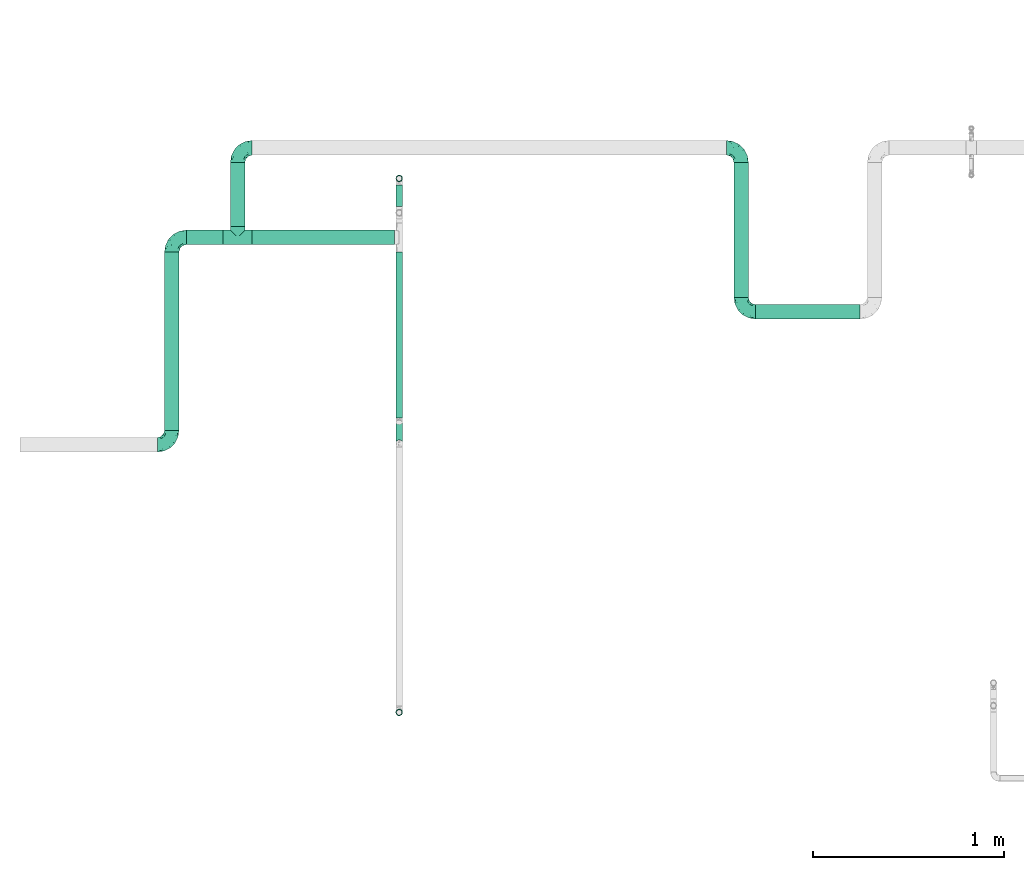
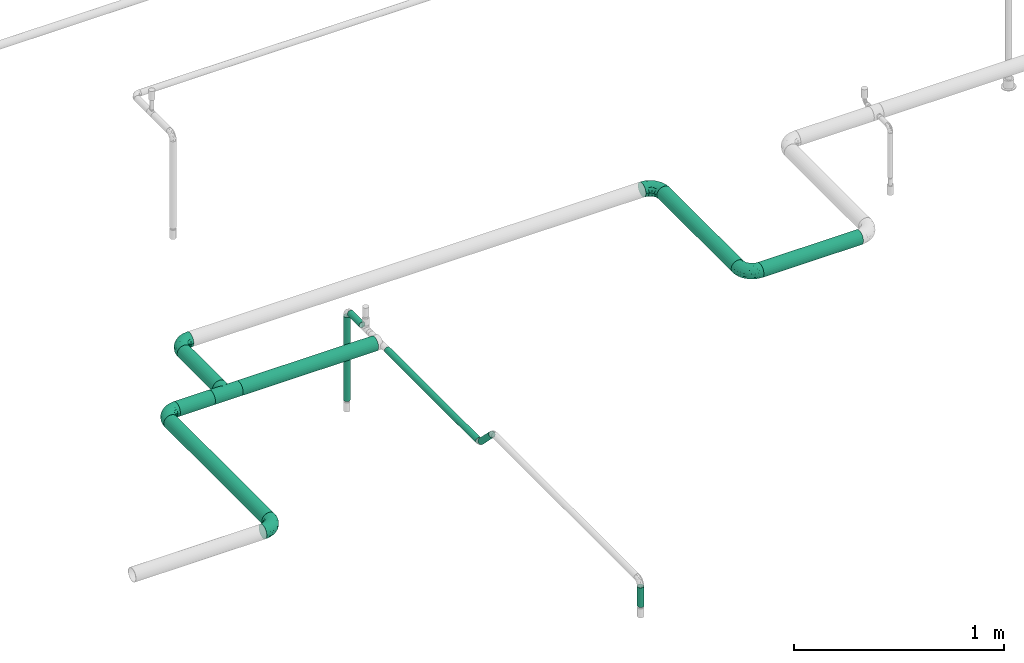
# One storey, part 2 of 51: 11 flow segments, 6 flow fittings.
"""IFC2X3 building model written with IfcOpenShell, lengths in millimetres."""

from ifc_helpers import new_model, entity, si_unit, converted_unit, derived_unit, direction, frame, origin_with_axes, origin_2d_with_axis, place, context, subcontext, project, spatial, hollow_circle, extrude, open_shell, surface_model, source, transform, mapped, type_object, element, save


model = new_model("IFC2X3")

# Units and contexts
model_context = context("Model", 3, precision=0.01, world=frame((0.0, 4.29681676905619e-09, 0.0)), true_north=direction((4.01073788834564e-13, 1.0)))
plan_context = context("Plan", 3, precision=0.01, world=frame((0.0, 4.29681676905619e-09, 0.0)), true_north=direction((4.01073788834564e-13, 1.0)))
body_context = subcontext(model_context, "Body", "Model", "MODEL_VIEW")
ifc_project = project(units=[converted_unit("PLANEANGLEUNIT", "DEGREE", entity("IfcPositiveLengthMeasure", 0.0174532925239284), si_unit("PLANEANGLEUNIT", "RADIAN"), dimensions=[0, 0, 0, 0, 0, 0, 0]), si_unit("AREAUNIT", "SQUARE_METRE"), si_unit("LENGTHUNIT", "METRE", prefix="MILLI"), si_unit("MASSUNIT", "GRAM", prefix="KILO"), si_unit("POWERUNIT", "WATT"), si_unit("PRESSUREUNIT", "PASCAL"), si_unit("FORCEUNIT", "NEWTON", prefix="KILO"), si_unit("ELECTRICVOLTAGEUNIT", "VOLT"), si_unit("ELECTRICCURRENTUNIT", "AMPERE"), si_unit("THERMODYNAMICTEMPERATUREUNIT", "DEGREE_CELSIUS"), si_unit("TIMEUNIT", "SECOND"), si_unit("VOLUMEUNIT", "CUBIC_METRE"), derived_unit("LINEARVELOCITYUNIT", [(si_unit("LENGTHUNIT", "METRE"), 1), (si_unit("TIMEUNIT", "SECOND"), -1)]), derived_unit("VOLUMETRICFLOWRATEUNIT", [(si_unit("VOLUMEUNIT", "CUBIC_METRE"), 1), (si_unit("TIMEUNIT", "SECOND"), -1)]), derived_unit("THERMALTRANSMITTANCEUNIT", [(si_unit("POWERUNIT", "WATT"), 1), (si_unit("THERMODYNAMICTEMPERATUREUNIT", "KELVIN"), -1), (si_unit("AREAUNIT", "SQUARE_METRE"), -1)]), derived_unit("SOUNDPRESSUREUNIT", [(si_unit("PRESSUREUNIT", "PASCAL"), 1)])], contexts=[model_context, plan_context])

# Site, building, storey
site_placement = place(None, frame((0.0, -4.29681676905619e-09, 0.0), z_axis=(0.0, 0.0, 1.0), x_axis=(1.0, 0.0, 0.0)))
site = spatial("IfcSite", under=ifc_project, at=site_placement, Name="ENGM", CompositionType="ELEMENT")
building_placement = place(site_placement, frame((0.0, 4.29681676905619e-09, 0.0), z_axis=(0.0, 0.0, 1.0), x_axis=(1.0, 0.0, 0.0)))
building = spatial("IfcBuilding", under=site, at=building_placement, Name="TH", CompositionType="ELEMENT")
storey_placement = place(building_placement, frame((0.0, 0.0, 210200.0), z_axis=(0.0, 0.0, 1.0), x_axis=(1.0, 0.0, 0.0)))
storey = spatial("IfcBuildingStorey", under=building, at=storey_placement, Name="Nivå F - 0,7 m", CompositionType="ELEMENT", Elevation=210200.0)

# Flow fittings
pipe_fitting_type_1 = type_object("IfcPipeFittingType", Name="magi_pipe_fe_tee_centric_90_NOR", PredefinedType="JUNCTION")
shared_shape_1 = source(origin_with_axes(), body_context, "Body", "SurfaceModel", [
    surface_model("IfcShellBasedSurfaceModel", [(-76.2, 19.05, -32.99557), (-76.2, 9.86101, -36.80177), (-76.2, 0.0, -38.1), (-76.2, 26.94077, -26.94077), (-76.2, 36.80177, -9.86101), (-76.2, 32.99557, -19.05), (-76.2, -19.05, -32.99557), (-76.2, -26.94077, -26.94077), (-76.2, -9.86101, -36.80177), (-76.2, 38.1, 0.0), (-76.2, 36.80177, 9.86101), (-76.2, -38.1, 0.0), (-76.2, -36.80177, -9.86101), (-76.2, -32.99557, -19.05), (-76.2, 32.99557, 19.05), (-76.2, -36.80177, 9.86101), (-76.2, 19.05, 32.99557), (-76.2, 26.94077, 26.94077), (-76.2, 0.0, 38.1), (-76.2, 9.86101, 36.80177), (-76.2, -26.94077, 26.94077), (-76.2, -32.99557, 19.05), (-76.2, -9.86101, 36.80177), (-76.2, -19.05, 32.99557), (76.2, 0.0, -38.1), (76.2, -36.80177, 9.86101), (76.2, -38.1, 0.0), (76.2, 36.80177, -9.86101), (76.2, 9.86101, -36.80177), (76.2, 19.05, -32.99557), (76.2, 26.94077, -26.94077), (76.2, 32.99557, -19.05), (76.2, -9.86101, -36.80177), (76.2, -26.94077, -26.94077), (76.2, -19.05, -32.99557), (76.2, -32.99557, -19.05), (76.2, -36.80177, -9.86101), (76.2, 19.05, 32.99557), (76.2, 36.80177, 9.86101), (76.2, 32.99557, 19.05), (76.2, 0.0, 38.1), (76.2, 26.94077, 26.94077), (76.2, 9.86101, 36.80177), (76.2, -32.99557, 19.05), (76.2, -26.94077, 26.94077), (76.2, -19.05, 32.99557), (76.2, -9.86101, 36.80177), (76.2, 38.1, 0.0), (37.03376, -37.03376, 8.95045), (38.1, -38.1, 0.0), (76.2, -34.89867, 14.4555), (35.56052, -35.56052, 12.98504), (34.08727, -34.08727, 17.01964), (18.8305, -18.8305, 33.12132), (76.2, -22.99539, 29.96817), (29.78269, -29.78269, 23.76134), (76.2, -29.96817, 22.99539), (24.5894, -24.5894, 29.10277), (-35.56052, -35.56052, 12.98504), (-76.2, -34.89867, 14.4555), (-34.08727, -34.08727, 17.01964), (-37.03376, -37.03376, 8.95045), (-38.1, -38.1, 0.0), (-18.8305, -18.8305, 33.12132), (-76.2, -22.99539, 29.96817), (-29.78269, -29.78269, 23.76134), (-24.5894, -24.5894, 29.10277), (-76.2, -29.96817, 22.99539), (-12.71924, -12.71924, 35.91422), (6.40528, -6.40528, 37.55772), (12.71924, -12.71924, 35.91422), (0.0, 0.0, 38.1), (-6.40528, -6.40528, 37.55772), (6.40528, -6.40528, -37.55772), (0.0, 0.0, -38.1), (12.71924, -12.71924, -35.91422), (-24.5894, -24.5894, -29.10277), (-76.2, -22.99539, -29.96817), (-35.56052, -35.56052, -12.98504), (-37.03376, -37.03376, -8.95045), (-29.78269, -29.78269, -23.76134), (-76.2, -29.96817, -22.99539), (-6.40528, -6.40528, -37.55772), (-12.71924, -12.71924, -35.91422), (18.8305, -18.8305, -33.12132), (76.2, -22.99539, -29.96817), (24.5894, -24.5894, -29.10277), (-76.2, -34.89867, -14.4555), (-34.08727, -34.08727, -17.01964), (29.78269, -29.78269, -23.76134), (76.2, -29.96817, -22.99539), (37.03376, -37.03376, -8.95045), (35.56052, -35.56052, -12.98504), (34.08727, -34.08727, -17.01964), (76.2, -34.89867, -14.4555), (-18.8305, -18.8305, -33.12132), (0.0, -57.15, -38.1), (9.86101, -57.15, -36.80177), (19.05, -57.15, -32.99557), (26.94077, -57.15, -26.94077), (32.99557, -57.15, -19.05), (36.80177, -57.15, -9.86101), (0.0, -57.15, 38.1), (-26.94077, -57.15, -26.94077), (-9.86101, -57.15, -36.80177), (-19.05, -57.15, -32.99557), (-36.80177, -57.15, -9.86101), (-32.99557, -57.15, -19.05), (-32.99557, -57.15, 19.05), (-36.80177, -57.15, 9.86101), (-38.1, -57.15, 0.0), (19.05, -57.15, 32.99557), (36.80177, -57.15, 9.86101), (32.99557, -57.15, 19.05), (26.94077, -57.15, 26.94077), (9.86101, -57.15, 36.80177), (-26.94077, -57.15, 26.94077), (-19.05, -57.15, 32.99557), (-9.86101, -57.15, 36.80177), (38.1, -57.15, 0.0)], [open_shell([[[0, 1, 2]], [[3, 0, 2]], [[4, 5, 3]], [[6, 7, 8]], [[9, 4, 10]], [[11, 3, 2]], [[4, 3, 11]], [[11, 8, 7]], [[12, 11, 13]], [[7, 13, 11]], [[11, 2, 8]], [[11, 10, 4]], [[14, 10, 11]], [[14, 11, 15]], [[15, 16, 14]], [[17, 14, 16]], [[18, 19, 16]], [[20, 18, 21]], [[15, 21, 18]], [[22, 18, 23]], [[20, 23, 18]], [[18, 16, 15]], [[24, 25, 26]], [[27, 28, 29]], [[30, 31, 27]], [[30, 27, 29]], [[28, 25, 24]], [[32, 33, 34]], [[32, 24, 33]], [[35, 26, 36]], [[26, 35, 33]], [[24, 26, 33]], [[28, 27, 37]], [[27, 38, 37]], [[37, 38, 39]], [[37, 40, 28]], [[37, 39, 41]], [[40, 37, 42]], [[43, 40, 44]], [[25, 28, 43]], [[45, 40, 46]], [[40, 45, 44]], [[40, 43, 28]], [[38, 27, 47]], [[26, 25, 48]], [[48, 49, 26]], [[25, 50, 51]], [[50, 43, 52]], [[45, 53, 54]], [[44, 55, 56]], [[55, 44, 57]], [[43, 55, 52]], [[57, 44, 54]], [[15, 58, 59]], [[60, 59, 58]], [[61, 11, 62]], [[11, 61, 15]], [[15, 61, 58]], [[63, 23, 64]], [[65, 66, 20]], [[65, 67, 21]], [[20, 66, 64]], [[63, 68, 23]], [[65, 21, 60]], [[50, 52, 51]], [[54, 53, 57]], [[46, 40, 69]], [[25, 51, 48]], [[53, 45, 70]], [[69, 70, 46]], [[65, 20, 67]], [[69, 40, 71]], [[70, 45, 46]], [[14, 41, 39]], [[10, 39, 38]], [[16, 42, 37]], [[17, 37, 41]], [[42, 71, 40]], [[9, 38, 47]], [[72, 71, 18]], [[60, 21, 59]], [[72, 22, 68]], [[22, 72, 18]], [[22, 23, 68]], [[71, 19, 18]], [[63, 64, 66]], [[42, 19, 71]], [[16, 19, 42]], [[16, 37, 17]], [[14, 17, 41]], [[10, 14, 39]], [[38, 9, 10]], [[55, 43, 56]], [[3, 31, 30]], [[4, 27, 31]], [[9, 47, 27]], [[0, 30, 29]], [[24, 32, 73]], [[28, 24, 74]], [[73, 32, 75]], [[76, 7, 77]], [[29, 28, 1]], [[32, 34, 75]], [[24, 73, 74]], [[4, 31, 5]], [[0, 3, 30]], [[5, 31, 3]], [[9, 27, 4]], [[12, 78, 79]], [[80, 13, 81]], [[82, 83, 8]], [[74, 82, 2]], [[74, 2, 1]], [[2, 82, 8]], [[83, 6, 8]], [[1, 0, 29]], [[74, 1, 28]], [[84, 85, 86]], [[85, 33, 86]], [[87, 88, 78]], [[84, 34, 85]], [[89, 86, 33]], [[90, 35, 89]], [[34, 84, 75]], [[36, 91, 92]], [[91, 36, 26]], [[93, 94, 92]], [[49, 91, 26]], [[35, 93, 89]], [[76, 77, 95]], [[36, 92, 94]], [[77, 6, 95]], [[7, 76, 80]], [[7, 80, 81]], [[93, 35, 94]], [[95, 6, 83]], [[79, 62, 11]], [[12, 87, 78]], [[88, 87, 13]], [[12, 79, 11]], [[88, 13, 80]], [[89, 33, 90]], [[96, 97, 98]], [[96, 98, 99]], [[99, 100, 101]], [[99, 101, 96]], [[102, 103, 96]], [[104, 103, 105]], [[104, 96, 103]], [[103, 106, 107]], [[103, 108, 106]], [[106, 109, 110]], [[111, 96, 101]], [[112, 113, 101]], [[101, 113, 111]], [[111, 102, 96]], [[111, 113, 114]], [[102, 111, 115]], [[108, 102, 116]], [[109, 106, 108]], [[117, 102, 118]], [[102, 117, 116]], [[102, 108, 103]], [[112, 101, 119]], [[61, 62, 110]], [[109, 61, 110]], [[116, 117, 66]], [[65, 108, 116]], [[60, 109, 108]], [[68, 117, 118]], [[60, 61, 109]], [[66, 65, 116]], [[60, 108, 65]], [[68, 63, 117]], [[102, 71, 72]], [[68, 118, 72]], [[66, 117, 63]], [[72, 118, 102]], [[69, 102, 115]], [[111, 70, 115]], [[113, 112, 52]], [[55, 114, 113]], [[57, 111, 114]], [[48, 112, 119]], [[57, 53, 111]], [[70, 69, 115]], [[53, 70, 111]], [[49, 48, 119]], [[52, 55, 113]], [[48, 52, 112]], [[57, 114, 55]], [[102, 69, 71]], [[49, 119, 91]], [[101, 91, 119]], [[89, 100, 99]], [[99, 98, 86]], [[93, 101, 100]], [[75, 98, 97]], [[93, 91, 101]], [[86, 89, 99]], [[93, 100, 89]], [[75, 84, 98]], [[96, 74, 73]], [[75, 97, 73]], [[86, 98, 84]], [[73, 97, 96]], [[82, 96, 104]], [[105, 83, 104]], [[107, 106, 88]], [[80, 103, 107]], [[76, 105, 103]], [[79, 106, 110]], [[76, 95, 105]], [[83, 82, 104]], [[95, 83, 105]], [[62, 79, 110]], [[88, 80, 107]], [[79, 88, 106]], [[76, 103, 80]], [[96, 82, 74]]])]),
])
flow_fitting_placement = place(storey_placement, frame((896252.9663, 483859.45519, 2933.0), z_axis=(0.0, 0.0, 1.0), x_axis=(-1.0, 0.0, 0.0)))
element("IfcFlowFitting", 1, at=flow_fitting_placement, inside=storey, type_object=pipe_fitting_type_1, Name="magi_pipe_fe_tee_centric_90_NOR", context=body_context, shape_type="MappedRepresentation", body=[
    mapped(shared_shape_1, transform((0.0, 0.0, 0.0), scale=1.0)),
])
pipe_fitting_type_2 = type_object("IfcPipeFittingType", Name="magi_pipe_fe_elbow_short_001", PredefinedType="BEND")
shared_shape_2 = source(origin_with_axes(), body_context, "Body", "SurfaceModel", [
    surface_model("IfcShellBasedSurfaceModel", [(-76.2, 19.05, -32.99557), (-76.2, 9.86101, -36.80177), (-76.2, 0.0, -38.1), (-76.2, 26.94077, -26.94077), (-76.2, 36.80177, -9.86101), (-76.2, 32.99557, -19.05), (-76.2, -26.94077, -26.94077), (-76.2, -36.80177, -9.86101), (-76.2, -19.05, -32.99557), (-76.2, -9.86101, -36.80177), (-76.2, -32.99557, -19.05), (-76.2, -38.1, 0.0), (-76.2, -36.80177, 9.86101), (-76.2, 26.94077, 26.94077), (-76.2, 36.80177, 9.86101), (-76.2, 32.99557, 19.05), (-76.2, 9.86101, 36.80177), (-76.2, 19.05, 32.99557), (-76.2, 0.0, 38.1), (-76.2, -32.99557, 19.05), (-76.2, -26.94077, 26.94077), (-76.2, -9.86101, 36.80177), (-76.2, -19.05, 32.99557), (-76.2, 38.1, 0.0), (0.0, 76.2, -38.1), (-9.86101, 76.2, -36.80177), (-19.05, 76.2, -32.99557), (-26.94077, 76.2, -26.94077), (-32.99557, 76.2, -19.05), (-36.80177, 76.2, -9.86101), (26.94077, 76.2, -26.94077), (36.80177, 76.2, -9.86101), (9.86101, 76.2, -36.80177), (19.05, 76.2, -32.99557), (32.99557, 76.2, -19.05), (36.80177, 76.2, 9.86101), (38.1, 76.2, 0.0), (-36.80177, 76.2, 9.86101), (-26.94077, 76.2, 26.94077), (-32.99557, 76.2, 19.05), (-19.05, 76.2, 32.99557), (-9.86101, 76.2, 36.80177), (0.0, 76.2, 38.1), (26.94077, 76.2, 26.94077), (32.99557, 76.2, 19.05), (9.86101, 76.2, 36.80177), (19.05, 76.2, 32.99557), (-38.1, 76.2, 0.0), (-51.47253, -33.41495, 11.97429), (-55.87921, -29.59735, 21.38675), (-40.87936, -32.50576, 0.0), (-57.46182, -35.13216, 0.0), (-9.7569, -13.15819, 14.69187), (-2.65186, -10.17769, 8.01257), (2.20082, -2.20082, 15.78668), (-58.2046, -5.04721, 37.4484), (-53.35237, 5.84022, 38.03506), (13.01533, 9.30417, 14.3119), (23.26567, 31.00373, 18.95093), (8.92292, 13.82363, 24.31711), (-37.93212, -0.34191, 36.92855), (-55.73356, -14.37507, 34.26516), (-29.5907, -8.99996, 31.84562), (-48.87429, -21.76577, 28.30344), (-34.13735, -29.20196, 7.83838), (-24.94775, -24.3882, 0.0), (-13.82363, -8.92292, 24.31711), (-6.80575, 6.80575, 31.14998), (-37.24299, 60.80967, 16.55959), (-31.82754, 59.31737, 25.03043), (-14.22204, 65.71998, 35.68746), (-5.22176, 56.99222, 38.00642), (-58.73143, 14.94265, 35.9909), (-9.94517, 25.51838, 37.4103), (-18.93111, 6.98952, 35.57772), (-3.89226, 20.58438, 35.01344), (-65.91802, 23.07271, 31.04479), (-13.24152, 37.4675, 38.03164), (-28.22122, 28.22122, 37.17425), (-22.68668, 16.64938, 37.90374), (-60.23482, 40.58212, 8.37688), (-60.8286, 37.23683, 16.55705), (-47.30619, 47.30619, 14.2421), (-59.55922, 31.76102, 25.00381), (21.76577, 48.87429, 28.30344), (-39.51357, 50.50487, 21.56421), (14.37507, 55.73356, 34.26516), (29.59735, 55.87921, 21.38675), (33.41495, 51.47253, 11.97429), (-9.01615, -16.27064, 0.0), (-18.50075, -20.95742, 9.87146), (5.04721, 58.2046, 37.4484), (-41.86713, 16.32002, 37.41817), (-37.38612, 9.33613, 38.08374), (24.3882, 24.94775, 0.0), (29.20196, 34.13735, 7.83838), (20.95742, 18.50075, 9.87146), (35.13216, 57.46182, 0.0), (-40.50473, 25.85184, 35.24027), (-31.00373, -23.26567, 18.95093), (-27.62233, 49.24446, 32.02197), (-23.27638, 63.88751, 31.20285), (-40.10509, 61.46399, 8.17366), (-47.75011, 49.97248, 6.70535), (17.55292, 30.69115, 25.82241), (8.99996, 29.5907, 31.84562), (-43.20443, 57.15, 0.0), (-35.27088, 40.23417, 31.3068), (-52.46543, 25.86294, 32.08413), (-0.58232, 0.58231, 22.50977), (-21.74145, 39.43998, 36.62577), (-30.35377, 36.8865, 34.66668), (-16.47755, 51.62643, 36.28492), (-40.16133, 42.54966, 26.98796), (-48.93373, 40.93898, 21.24545), (0.34191, 37.93212, 36.92855), (-30.54899, -16.70018, 26.56572), (10.38979, 2.76708, 7.59679), (32.50576, 40.87936, 0.0), (16.27064, 9.01615, 0.0), (-57.15, 43.20443, 0.0), (3.62725, -3.62725, 0.0), (-56.18403, 32.81229, -25.37784), (-60.79374, 37.24818, -16.56172), (-31.12583, -9.61531, -31.96506), (-33.08389, -0.47526, -36.23756), (-15.30809, -0.63756, -31.219), (-60.31522, 4.8175, -37.976), (-55.58208, -34.10815, -12.42093), (-47.87166, -28.25416, -20.6363), (-36.35476, -28.57081, -12.78243), (-55.4317, 15.55274, -36.12913), (-41.97308, 9.00674, -38.09177), (-32.8123, 56.18403, -25.37784), (-61.68117, 39.97816, -8.33686), (-23.91371, 59.81378, -31.51803), (-15.55274, 55.4317, -36.12913), (-48.48008, 48.48008, -9.09668), (22.76239, 55.12076, -28.76608), (13.14871, 48.24989, -33.88525), (15.02018, 64.34702, -34.67535), (-7.42295, -13.4022, -10.03386), (-7.53093, -9.8797, -17.36177), (4.09889, -3.23385, -10.05311), (-22.23209, 20.60173, -38.07837), (-36.11879, 22.54399, -36.96599), (-59.81378, 23.91371, -31.51803), (-64.14494, -30.32973, -22.13621), (-37.06617, 43.2809, -28.69704), (-35.21221, 35.21221, -33.45314), (-46.56802, 32.18433, -30.26847), (3.32253, -0.70027, -16.3296), (-55.12076, -22.76239, -28.76608), (28.25416, 47.87166, -20.6363), (34.10815, 55.58208, -12.42093), (28.57081, 36.35476, -12.78243), (-64.34702, -15.02018, -34.67535), (4.80394, 56.13349, -37.40338), (-24.08639, -18.54476, -20.78452), (-28.44745, -15.54194, -26.65272), (-13.81153, -9.41447, -23.82138), (-41.58053, -17.39667, -29.91543), (-48.24989, -13.14871, -33.88525), (-56.1335, -4.80394, -37.40338), (-28.5499, 46.87201, -32.27447), (-39.97816, 61.68117, -8.33686), (-4.8175, 60.31522, -37.976), (-13.45022, 13.45022, -35.97664), (0.47526, 33.08389, -36.23756), (1.60394, 17.89715, -31.77365), (-37.24818, 60.79374, -16.56172), (-45.75928, 45.75928, -18.77942), (30.32973, 64.14494, -22.13621), (22.08018, 30.6107, -20.46174), (12.28189, 14.44402, -21.13272), (15.54194, 28.44745, -26.65272), (7.87454, 32.5264, -33.28409), (-9.00674, 41.97308, -38.09177), (-46.32128, 24.51975, -34.33978), (-22.71812, 37.0764, -36.7817), (-0.36118, 0.36118, -22.07635), (-17.64772, -21.30183, -6.55407), (19.53658, 18.92928, -14.18962), (21.30183, 17.64772, -6.55407), (4.4885, 11.61303, -26.72553), (-18.92929, -19.53658, -14.18962)], [open_shell([[[0, 1, 2]], [[3, 0, 2]], [[4, 5, 3]], [[6, 3, 2]], [[4, 3, 7]], [[8, 6, 9]], [[6, 2, 9]], [[10, 7, 6]], [[6, 7, 3]], [[11, 12, 7]], [[12, 4, 7]], [[13, 14, 4]], [[15, 14, 13]], [[16, 17, 13]], [[4, 12, 13]], [[13, 18, 16]], [[19, 20, 12]], [[21, 12, 20]], [[22, 21, 20]], [[21, 13, 12]], [[21, 18, 13]], [[23, 4, 14]], [[24, 25, 26]], [[24, 26, 27]], [[27, 28, 29]], [[24, 27, 30]], [[31, 27, 29]], [[32, 30, 33]], [[32, 24, 30]], [[30, 31, 34]], [[27, 31, 30]], [[31, 35, 36]], [[31, 29, 35]], [[29, 37, 38]], [[38, 37, 39]], [[38, 40, 41]], [[29, 38, 35]], [[42, 38, 41]], [[35, 43, 44]], [[43, 35, 45]], [[43, 45, 46]], [[35, 38, 45]], [[38, 42, 45]], [[37, 29, 47]], [[48, 49, 19]], [[50, 48, 51]], [[52, 53, 54]], [[12, 48, 19]], [[12, 51, 48]], [[18, 55, 56]], [[19, 49, 20]], [[57, 58, 59]], [[60, 61, 62]], [[63, 22, 20]], [[63, 61, 22]], [[64, 50, 65]], [[62, 66, 67]], [[39, 68, 69]], [[41, 70, 71]], [[16, 72, 17]], [[73, 74, 75]], [[17, 76, 13]], [[21, 55, 18]], [[77, 78, 79]], [[80, 81, 82]], [[15, 83, 81]], [[84, 43, 46]], [[23, 14, 80]], [[14, 15, 81]], [[68, 85, 69]], [[83, 15, 13]], [[18, 56, 16]], [[46, 86, 84]], [[13, 76, 83]], [[87, 58, 88]], [[39, 37, 68]], [[89, 90, 65]], [[42, 91, 45]], [[65, 90, 64]], [[42, 41, 71]], [[92, 93, 79]], [[88, 35, 44]], [[44, 43, 87]], [[87, 88, 44]], [[94, 95, 96]], [[88, 97, 35]], [[98, 72, 92]], [[49, 99, 63]], [[69, 100, 101]], [[82, 102, 103]], [[104, 105, 59]], [[106, 102, 47]], [[98, 107, 108]], [[102, 82, 68]], [[86, 46, 45]], [[69, 38, 39]], [[109, 54, 57]], [[110, 100, 111]], [[22, 61, 21]], [[101, 40, 38]], [[70, 41, 40]], [[112, 77, 71]], [[84, 86, 105]], [[96, 95, 58]], [[100, 69, 113]], [[72, 16, 56]], [[108, 113, 83]], [[81, 114, 82]], [[112, 110, 77]], [[91, 71, 115]], [[62, 61, 63]], [[55, 61, 60]], [[116, 99, 66]], [[74, 62, 67]], [[91, 86, 45]], [[105, 86, 115]], [[75, 105, 115]], [[109, 67, 66]], [[59, 105, 67]], [[48, 64, 99]], [[99, 49, 48]], [[63, 20, 49]], [[43, 84, 87]], [[58, 87, 84]], [[92, 72, 56]], [[76, 72, 108]], [[102, 68, 37]], [[82, 114, 85]], [[98, 111, 107]], [[112, 70, 101]], [[114, 83, 113]], [[82, 103, 80]], [[92, 79, 78]], [[115, 71, 77]], [[74, 79, 60]], [[77, 79, 73]], [[71, 91, 42]], [[86, 91, 115]], [[61, 55, 21]], [[56, 55, 60]], [[57, 54, 117]], [[104, 59, 58]], [[116, 66, 62]], [[52, 99, 90]], [[12, 11, 51]], [[97, 88, 118]], [[97, 36, 35]], [[53, 90, 89]], [[90, 53, 52]], [[94, 96, 119]], [[88, 95, 118]], [[117, 54, 53]], [[92, 56, 93]], [[98, 92, 78]], [[111, 98, 78]], [[72, 98, 108]], [[110, 111, 78]], [[107, 111, 100]], [[47, 102, 37]], [[102, 106, 103]], [[106, 120, 103]], [[103, 120, 80]], [[23, 80, 120]], [[14, 81, 80]], [[56, 60, 93]], [[60, 79, 93]], [[117, 121, 119]], [[121, 117, 53]], [[53, 89, 121]], [[119, 96, 117]], [[117, 96, 57]], [[77, 110, 78]], [[100, 110, 112]], [[83, 114, 81]], [[85, 114, 113]], [[69, 85, 113]], [[82, 85, 68]], [[109, 52, 54]], [[99, 52, 66]], [[69, 101, 38]], [[112, 101, 100]], [[100, 113, 107]], [[108, 107, 113]], [[62, 74, 60]], [[75, 74, 67]], [[105, 75, 67]], [[73, 75, 115]], [[77, 73, 115]], [[74, 73, 79]], [[99, 64, 90]], [[50, 64, 48]], [[118, 95, 94]], [[58, 95, 88]], [[58, 57, 96]], [[109, 57, 59]], [[72, 76, 17]], [[83, 76, 108]], [[101, 70, 40]], [[71, 70, 112]], [[58, 84, 104]], [[105, 104, 84]], [[67, 109, 59]], [[52, 109, 66]], [[62, 63, 116]], [[99, 116, 63]], [[122, 5, 123]], [[124, 125, 126]], [[2, 1, 127]], [[128, 129, 130]], [[127, 131, 132]], [[28, 27, 133]], [[120, 134, 23]], [[135, 26, 136]], [[123, 134, 137]], [[138, 139, 140]], [[122, 3, 5]], [[141, 142, 143]], [[144, 132, 145]], [[131, 0, 146]], [[128, 10, 147]], [[148, 149, 150]], [[128, 51, 7]], [[142, 151, 143]], [[152, 6, 8]], [[153, 154, 155]], [[156, 152, 8]], [[32, 157, 24]], [[158, 159, 160]], [[147, 10, 6]], [[129, 152, 161]], [[156, 8, 9]], [[162, 163, 125]], [[154, 34, 31]], [[120, 106, 137]], [[149, 148, 164]], [[47, 29, 165]], [[163, 9, 2]], [[5, 4, 123]], [[25, 166, 136]], [[167, 168, 169]], [[170, 133, 171]], [[25, 24, 166]], [[33, 30, 138]], [[157, 32, 140]], [[29, 28, 170]], [[30, 34, 172]], [[26, 135, 27]], [[132, 131, 145]], [[32, 33, 140]], [[173, 174, 175]], [[169, 168, 176]], [[25, 136, 26]], [[175, 138, 173]], [[168, 177, 157]], [[163, 162, 156]], [[153, 172, 154]], [[10, 128, 7]], [[154, 97, 118]], [[131, 178, 145]], [[0, 3, 146]], [[175, 139, 138]], [[155, 118, 94]], [[131, 1, 0]], [[146, 178, 131]], [[170, 137, 165]], [[149, 179, 145]], [[171, 133, 148]], [[160, 180, 142]], [[65, 181, 89]], [[170, 165, 29]], [[137, 171, 123]], [[172, 138, 30]], [[138, 153, 173]], [[168, 157, 139]], [[166, 157, 177]], [[176, 175, 169]], [[168, 167, 144]], [[154, 31, 97]], [[155, 182, 173]], [[162, 124, 161]], [[147, 152, 129]], [[127, 163, 2]], [[132, 144, 125]], [[132, 125, 163]], [[125, 167, 126]], [[129, 158, 130]], [[31, 36, 97]], [[143, 182, 183]], [[169, 126, 167]], [[3, 122, 146]], [[178, 150, 149]], [[136, 179, 164]], [[133, 27, 135]], [[123, 4, 134]], [[122, 123, 171]], [[133, 170, 28]], [[137, 170, 171]], [[184, 175, 174]], [[180, 160, 126]], [[126, 169, 184]], [[126, 159, 124]], [[51, 128, 50]], [[51, 11, 7]], [[131, 127, 1]], [[163, 127, 132]], [[157, 166, 24]], [[136, 166, 177]], [[164, 179, 149]], [[144, 167, 125]], [[179, 144, 145]], [[168, 144, 177]], [[136, 177, 179]], [[144, 179, 177]], [[141, 121, 89]], [[89, 181, 141]], [[154, 118, 155]], [[183, 155, 94]], [[143, 183, 119]], [[119, 183, 94]], [[155, 183, 182]], [[181, 130, 185]], [[50, 128, 130]], [[130, 181, 65]], [[50, 130, 65]], [[141, 181, 185]], [[142, 141, 185]], [[143, 121, 141]], [[158, 160, 142]], [[142, 180, 151]], [[158, 142, 185]], [[126, 160, 159]], [[130, 158, 185]], [[129, 159, 158]], [[23, 134, 4]], [[120, 137, 134]], [[137, 106, 165]], [[47, 165, 106]], [[174, 151, 180]], [[182, 143, 151]], [[150, 146, 122]], [[149, 145, 178]], [[146, 150, 178]], [[122, 171, 148]], [[148, 150, 122]], [[164, 133, 135]], [[133, 164, 148]], [[164, 135, 136]], [[138, 140, 33]], [[157, 140, 139]], [[154, 172, 34]], [[138, 172, 153]], [[163, 156, 9]], [[152, 156, 162]], [[152, 147, 6]], [[128, 147, 129]], [[155, 173, 153]], [[174, 173, 182]], [[151, 174, 182]], [[174, 180, 184]], [[126, 184, 180]], [[175, 184, 169]], [[168, 139, 176]], [[175, 176, 139]], [[161, 124, 159]], [[125, 124, 162]], [[129, 161, 159]], [[162, 161, 152]], [[143, 119, 121]]])]),
])
for number, where, z_axis, x_axis, name in (
    (2, (895907.76271, 483859.45519, 2933.0), (0.0, 0.0, 1.0), (-1.0, 0.0, 0.0), "magi_pipe_fe_elbow_short_001"),
    (3, (895907.76271, 482771.97183, 2933.0), (0.0, 0.0, 1.0), (1.0, 0.0, 0.0), "magi_pipe_fe_elbow_short_001"),
    (4, (896252.9663, 484329.45519, 2933.0), (0.0, 0.0, 1.0), (-1.0, 0.0, 0.0), "magi_pipe_fe_elbow_short_001"),
    (5, (898892.9663, 484329.45519, 2933.0), (0.0, 0.0, 1.0), (0.0, 1.0, 0.0), "magi_pipe_fe_elbow_short_001"),
    (6, (898892.9663, 483469.45519, 2933.0), (0.0, 0.0, 1.0), (0.0, -1.0, 0.0), "magi_pipe_fe_elbow_short_001"),
):
    element("IfcFlowFitting", number, at=place(storey_placement, frame(where, z_axis=z_axis, x_axis=x_axis)), inside=storey, type_object=pipe_fitting_type_2, Name=name, context=body_context, shape_type="MappedRepresentation", body=[
        mapped(shared_shape_2, transform((0.0, 0.0, 0.0), scale=1.0)),
    ])

# Flow segments
pipe_segment_type = type_object("IfcPipeSegmentType", Name="Stålrør normaltykke", PredefinedType="RIGIDSEGMENT")
shared_shape_3 = source(origin_with_axes(), body_context, "Body", "SweptSolid", [
    extrude(hollow_circle(Radius=38.0, WallThickness=2.0, at=origin_2d_with_axis()), frame((0.0, 0.0, 0.0), z_axis=(1.0, 0.0, 0.0), x_axis=(0.0, 1.0, 0.0)), (0.0, 0.0, 1.0), 935.1),
])
flow_segment_1_placement = place(storey_placement, frame((895907.76271, 482848.17183, 2933.0), z_axis=(0.0, 0.0, 1.0), x_axis=(0.0, 1.0, 0.0)))
element("IfcFlowSegment", 7, at=flow_segment_1_placement, inside=storey, type_object=pipe_segment_type, Name="Stålrør normaltykke", context=body_context, shape_type="MappedRepresentation", body=[
    mapped(shared_shape_3, transform((0.0, 0.0, 0.0), scale=1.0)),
])
shared_shape_4 = source(origin_with_axes(), body_context, "Body", "SweptSolid", [
    extrude(hollow_circle(Radius=16.9, WallThickness=2.0, at=origin_2d_with_axis()), frame((0.0, 0.0, 0.0), z_axis=(1.0, 0.0, 0.0), x_axis=(0.0, 1.0, 0.0)), (0.0, 0.0, 1.0), 113.8),
])
flow_segment_2_placement = place(storey_placement, frame((897100.0, 481369.15075, 2909.35200000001), z_axis=(1.0, 0.0, 0.0), x_axis=(0.0, 0.0, 1.0)))
element("IfcFlowSegment", 8, at=flow_segment_2_placement, inside=storey, type_object=pipe_segment_type, Name="Stålrør normaltykke", context=body_context, shape_type="MappedRepresentation", body=[
    mapped(shared_shape_4, transform((0.0, 0.0, 0.0), scale=1.0)),
])
shared_shape_5 = source(origin_with_axes(), body_context, "Body", "SweptSolid", [
    extrude(hollow_circle(Radius=16.9, WallThickness=2.0, at=origin_2d_with_axis()), frame((0.0, 0.0, 0.0), z_axis=(1.0, 0.0, 0.0), x_axis=(0.0, 1.0, 0.0)), (0.0, 0.0, 1.0), 870.2),
])
flow_segment_3_placement = place(storey_placement, frame((897100.0, 483783.25519, 2933.0), z_axis=(0.0, 0.0, 1.0), x_axis=(0.0, -1.0, 0.0)))
element("IfcFlowSegment", 9, at=flow_segment_3_placement, inside=storey, type_object=pipe_segment_type, Name="Stålrør normaltykke", context=body_context, shape_type="MappedRepresentation", body=[
    mapped(shared_shape_5, transform((0.0, 0.0, 0.0), scale=1.0)),
])
shared_shape_6 = source(origin_with_axes(), body_context, "Body", "SweptSolid", [
    extrude(hollow_circle(Radius=16.9, WallThickness=2.0, at=origin_2d_with_axis()), frame((0.0, 0.0, 0.0), z_axis=(1.0, 0.0, 0.0), x_axis=(0.0, 1.0, 0.0)), (0.0, 0.0, 1.0), 147.3),
])
flow_segment_4_placement = place(storey_placement, frame((897100.0, 482889.13604, 2942.89979), z_axis=(0.0, 0.707106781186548, 0.707106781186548), x_axis=(0.0, -0.707106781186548, 0.707106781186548)))
element("IfcFlowSegment", 10, at=flow_segment_4_placement, inside=storey, type_object=pipe_segment_type, Name="Stålrør normaltykke", context=body_context, shape_type="MappedRepresentation", body=[
    mapped(shared_shape_6, transform((0.0, 0.0, 0.0), scale=1.0)),
])
shared_shape_7 = source(origin_with_axes(), body_context, "Body", "SweptSolid", [
    extrude(hollow_circle(Radius=38.0, WallThickness=2.0, at=origin_2d_with_axis()), frame((0.0, 0.0, 0.0), z_axis=(1.0, 0.0, 0.0), x_axis=(0.0, 1.0, 0.0)), (0.0, 0.0, 1.0), 745.5),
])
flow_segment_5_placement = place(storey_placement, frame((896329.1663, 483859.45519, 2933.0), z_axis=(0.0, 0.0, 1.0), x_axis=(1.0, 0.0, 0.0)))
element("IfcFlowSegment", 11, at=flow_segment_5_placement, inside=storey, type_object=pipe_segment_type, Name="Stålrør normaltykke", context=body_context, shape_type="MappedRepresentation", body=[
    mapped(shared_shape_7, transform((0.0, 0.0, 0.0), scale=1.0)),
])
shared_shape_8 = source(origin_with_axes(), body_context, "Body", "SweptSolid", [
    extrude(hollow_circle(Radius=38.0, WallThickness=2.0, at=origin_2d_with_axis()), frame((0.0, 0.0, 0.0), z_axis=(1.0, 0.0, 0.0), x_axis=(0.0, 1.0, 0.0)), (0.0, 0.0, 1.0), 336.6),
])
flow_segment_6_placement = place(storey_placement, frame((896252.9663, 483916.60519, 2933.0), z_axis=(0.0, 0.0, 1.0), x_axis=(0.0, 1.0, 0.0)))
element("IfcFlowSegment", 12, at=flow_segment_6_placement, inside=storey, type_object=pipe_segment_type, Name="Stålrør normaltykke", context=body_context, shape_type="MappedRepresentation", body=[
    mapped(shared_shape_8, transform((0.0, 0.0, 0.0), scale=1.0)),
])
shared_shape_9 = source(origin_with_axes(), body_context, "Body", "SweptSolid", [
    extrude(hollow_circle(Radius=38.0, WallThickness=2.0, at=origin_2d_with_axis()), frame((0.0, 0.0, 0.0), z_axis=(1.0, 0.0, 0.0), x_axis=(0.0, 1.0, 0.0)), (0.0, 0.0, 1.0), 192.8),
])
flow_segment_7_placement = place(storey_placement, frame((895983.96271, 483859.45519, 2933.0), z_axis=(0.0, 0.0, 1.0), x_axis=(1.0, 0.0, 0.0)))
element("IfcFlowSegment", 13, at=flow_segment_7_placement, inside=storey, type_object=pipe_segment_type, Name="Stålrør normaltykke", context=body_context, shape_type="MappedRepresentation", body=[
    mapped(shared_shape_9, transform((0.0, 0.0, 0.0), scale=1.0)),
])
shared_shape_10 = source(origin_with_axes(), body_context, "Body", "SweptSolid", [
    extrude(hollow_circle(Radius=16.9, WallThickness=2.0, at=origin_2d_with_axis()), frame((0.0, 0.0, 0.0), z_axis=(1.0, 0.0, 0.0), x_axis=(0.0, 1.0, 0.0)), (0.0, 0.0, 1.0), 489.8),
])
flow_segment_8_placement = place(storey_placement, frame((897100.0, 484168.69816, 2899.20000000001), z_axis=(0.0, -1.0, 0.0), x_axis=(0.0, 0.0, -1.0)))
element("IfcFlowSegment", 14, at=flow_segment_8_placement, inside=storey, type_object=pipe_segment_type, Name="Stålrør normaltykke", context=body_context, shape_type="MappedRepresentation", body=[
    mapped(shared_shape_10, transform((0.0, 0.0, 0.0), scale=1.0)),
])
shared_shape_11 = source(origin_with_axes(), body_context, "Body", "SweptSolid", [
    extrude(hollow_circle(Radius=16.9, WallThickness=2.0, at=origin_2d_with_axis()), frame((0.0, 0.0, 0.0), z_axis=(1.0, 0.0, 0.0), x_axis=(0.0, 1.0, 0.0)), (0.0, 0.0, 1.0), 112.5),
])
flow_segment_9_placement = place(storey_placement, frame((897100.0, 484022.39352, 2933.0), z_axis=(0.0, 0.0, 1.0), x_axis=(0.0, 1.0, 0.0)))
element("IfcFlowSegment", 15, at=flow_segment_9_placement, inside=storey, type_object=pipe_segment_type, Name="Stålrør normaltykke", context=body_context, shape_type="MappedRepresentation", body=[
    mapped(shared_shape_11, transform((0.0, 0.0, 0.0), scale=1.0)),
])
shared_shape_12 = source(origin_with_axes(), body_context, "Body", "SweptSolid", [
    extrude(hollow_circle(Radius=38.0, WallThickness=2.0, at=origin_2d_with_axis()), frame((0.0, 0.0, 0.0), z_axis=(1.0, 0.0, 0.0), x_axis=(0.0, 1.0, 0.0)), (0.0, 0.0, 1.0), 707.6),
])
flow_segment_10_placement = place(storey_placement, frame((898892.9663, 484253.25519, 2933.0), z_axis=(0.0, 0.0, 1.0), x_axis=(0.0, -1.0, 0.0)))
element("IfcFlowSegment", 16, at=flow_segment_10_placement, inside=storey, type_object=pipe_segment_type, Name="Stålrør normaltykke", context=body_context, shape_type="MappedRepresentation", body=[
    mapped(shared_shape_12, transform((0.0, 0.0, 0.0), scale=1.0)),
])
shared_shape_13 = source(origin_with_axes(), body_context, "Body", "SweptSolid", [
    extrude(hollow_circle(Radius=38.0, WallThickness=2.0, at=origin_2d_with_axis()), frame((0.0, 0.0, 0.0), z_axis=(1.0, 0.0, 0.0), x_axis=(0.0, 1.0, 0.0)), (0.0, 0.0, 1.0), 547.6),
])
flow_segment_11_placement = place(storey_placement, frame((898969.1663, 483469.45519, 2933.0), z_axis=(0.0, 0.0, 1.0), x_axis=(1.0, 0.0, 0.0)))
element("IfcFlowSegment", 17, at=flow_segment_11_placement, inside=storey, type_object=pipe_segment_type, Name="Stålrør normaltykke", context=body_context, shape_type="MappedRepresentation", body=[
    mapped(shared_shape_13, transform((0.0, 0.0, 0.0), scale=1.0)),
])

save(model, "model.ifc")
